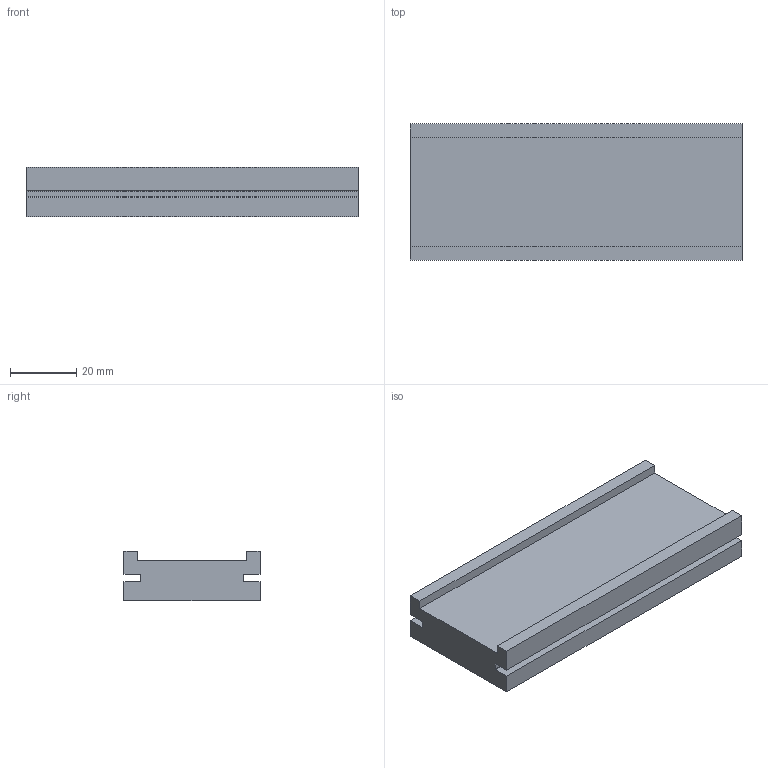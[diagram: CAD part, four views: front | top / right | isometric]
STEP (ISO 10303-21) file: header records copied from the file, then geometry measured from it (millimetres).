
FILE_DESCRIPTION (( 'STEP AP203' ), '1' );
FILE_NAME ('084.514.009.STEP', '2013-01-29T12:28:39', ( 'Alusic' ), ( 'Alusic' ), 'SwSTEP 2.0', 'SolidWorks 2011', '' );
FILE_SCHEMA (( 'CONFIG_CONTROL_DESIGN' ));
Length unit declared in the file: millimetre
Products named in the file (1): 084.514.009
Bounding box: 100 x 41 x 15 mm (x, y, z)
Volume: 50145.9 mm3; surface area: 14723.6 mm2
Topology: 1 solids, 1 shells, 22 faces, 60 edges, 40 vertices
Faces by surface type: plane 18, cylinder 4
Entity records: 769 total; most frequent: CARTESIAN_POINT 123, ORIENTED_EDGE 120, DIRECTION 114, EDGE_CURVE 60, LINE 52, VECTOR 52, VERTEX_POINT 40, AXIS2_PLACEMENT_3D 31
